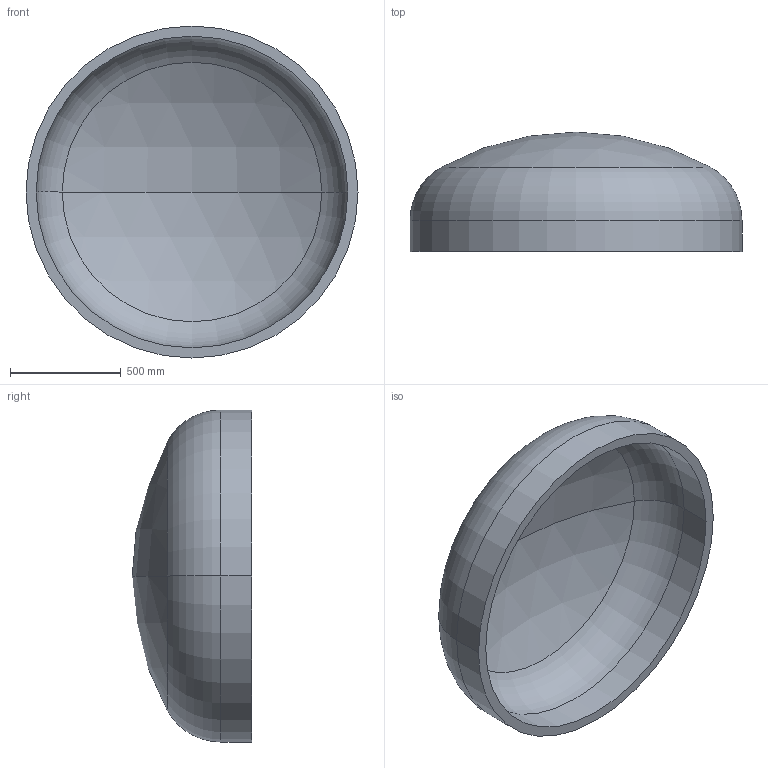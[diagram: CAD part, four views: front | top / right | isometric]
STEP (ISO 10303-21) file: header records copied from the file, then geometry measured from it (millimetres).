
FILE_DESCRIPTION (( 'STEP AP203' ), '1' );
FILE_NAME ('DIN 28013 Korbbogenform_-_Boden DIN 28013 - 1500 x 140 - I - s=46.step', '2016-07-01T10:47:41', ( '' ), ( '' ), 'SwSTEP 2.0', 'SolidWorks 2013', '' );
FILE_SCHEMA (( 'CONFIG_CONTROL_DESIGN' ));
Length unit declared in the file: millimetre
Products named in the file (1): DIN 28013 Korbbogenform_-_Boden DIN 28013 - 1500 x 140 - I - s=46
Bounding box: 1500 x 539.7 x 1500 mm (x, y, z)
Volume: 137487777.7 mm3; surface area: 6192281.8 mm2
Topology: 1 solids, 1 shells, 13 faces, 24 edges, 14 vertices
Faces by surface type: torus 4, cylinder 4, sphere 4, plane 1
Entity records: 407 total; most frequent: DIRECTION 72, CARTESIAN_POINT 52, ORIENTED_EDGE 48, AXIS2_PLACEMENT_3D 34, EDGE_CURVE 24, CIRCLE 20, VERTEX_POINT 14, EDGE_LOOP 14
